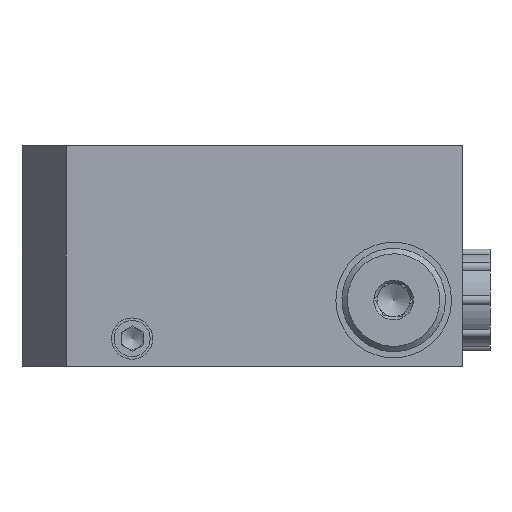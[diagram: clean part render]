
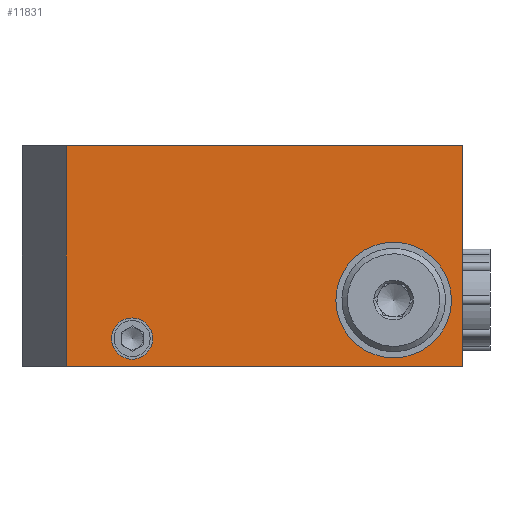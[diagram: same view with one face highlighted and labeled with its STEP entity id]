
A CAD part, left-side view. The second image highlights one B-rep face of the part: STEP entity #11831.
In plain terms, the highlighted planar face has unit normal (-1, 0, 0).
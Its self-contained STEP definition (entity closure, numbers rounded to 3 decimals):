
#877=CARTESIAN_POINT('',(-107.5,23.75,5.0));
#878=VERTEX_POINT('',#877);
#879=CARTESIAN_POINT('',(-107.5,20.,5.0));
#880=DIRECTION('',(1.0,0.0,0.0));
#881=DIRECTION('',(0.0,1.0,0.0));
#882=AXIS2_PLACEMENT_3D('',#879,#880,#881);
#883=CIRCLE('',#882,3.75);
#884=EDGE_CURVE('',#878,#878,#883,.T.);
#9892=CARTESIAN_POINT('',(-107.5,-40.,0.0));
#9893=VERTEX_POINT('',#9892);
#9900=CARTESIAN_POINT('',(-107.5,31.962,0.0));
#9901=VERTEX_POINT('',#9900);
#9902=CARTESIAN_POINT('',(-107.5,-40.,0.0));
#9903=DIRECTION('',(0.0,1.0,0.0));
#9904=VECTOR('',#9903,71.962);
#9905=LINE('',#9902,#9904);
#9906=EDGE_CURVE('',#9893,#9901,#9905,.T.);
#9978=CARTESIAN_POINT('',(-107.5,31.962,40.0));
#9979=VERTEX_POINT('',#9978);
#9988=CARTESIAN_POINT('',(-107.5,31.962,0.0));
#9989=DIRECTION('',(0.0,0.0,1.0));
#9990=VECTOR('',#9989,40.0);
#9991=LINE('',#9988,#9990);
#9992=EDGE_CURVE('',#9901,#9979,#9991,.T.);
#10739=CARTESIAN_POINT('',(-107.5,-27.5,22.5));
#10740=VERTEX_POINT('',#10739);
#10741=CARTESIAN_POINT('',(-107.5,-27.5,12.));
#10742=DIRECTION('',(1.0,0.0,0.0));
#10743=DIRECTION('',(0.0,0.0,1.0));
#10744=AXIS2_PLACEMENT_3D('',#10741,#10742,#10743);
#10745=CIRCLE('',#10744,10.5);
#10746=EDGE_CURVE('',#10740,#10740,#10745,.T.);
#11787=CARTESIAN_POINT('',(-107.5,-40.,40.0));
#11788=VERTEX_POINT('',#11787);
#11795=CARTESIAN_POINT('',(-107.5,-40.,0.0));
#11796=DIRECTION('',(0.0,0.0,1.0));
#11797=VECTOR('',#11796,40.0);
#11798=LINE('',#11795,#11797);
#11799=EDGE_CURVE('',#9893,#11788,#11798,.T.);
#11809=CARTESIAN_POINT('',(-107.5,-40.,0.0));
#11810=DIRECTION('',(-1.0,0.0,0.0));
#11811=DIRECTION('',(0.0,0.0,1.0));
#11812=AXIS2_PLACEMENT_3D('',#11809,#11810,#11811);
#11813=PLANE('',#11812);
#11814=ORIENTED_EDGE('',*,*,#9992,.F.);
#11815=ORIENTED_EDGE('',*,*,#9906,.F.);
#11816=ORIENTED_EDGE('',*,*,#11799,.T.);
#11817=CARTESIAN_POINT('',(-107.5,-40.,40.0));
#11818=DIRECTION('',(0.0,1.0,0.0));
#11819=VECTOR('',#11818,71.962);
#11820=LINE('',#11817,#11819);
#11821=EDGE_CURVE('',#11788,#9979,#11820,.T.);
#11822=ORIENTED_EDGE('',*,*,#11821,.T.);
#11823=EDGE_LOOP('',(#11814,#11815,#11816,#11822));
#11824=FACE_OUTER_BOUND('',#11823,.T.);
#11825=ORIENTED_EDGE('',*,*,#884,.T.);
#11826=EDGE_LOOP('',(#11825));
#11827=FACE_BOUND('',#11826,.T.);
#11828=ORIENTED_EDGE('',*,*,#10746,.T.);
#11829=EDGE_LOOP('',(#11828));
#11830=FACE_BOUND('',#11829,.T.);
#11831=ADVANCED_FACE('',(#11824,#11827,#11830),#11813,.T.);
